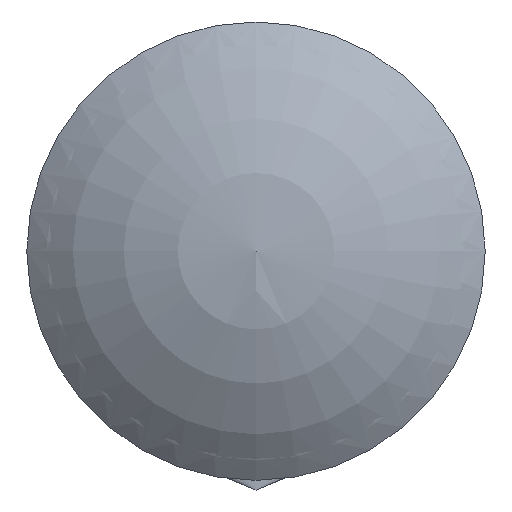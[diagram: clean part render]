
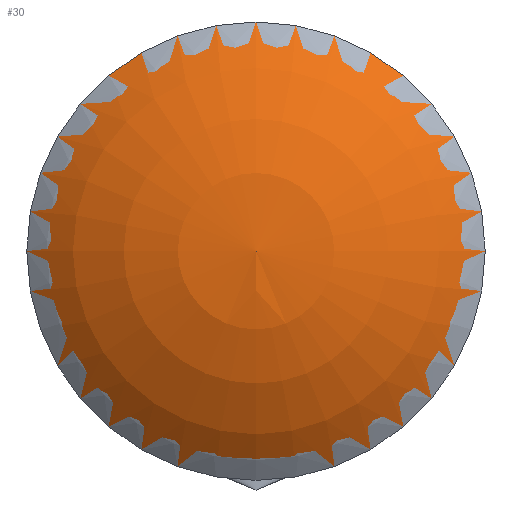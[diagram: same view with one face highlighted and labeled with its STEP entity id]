
A CAD part, front view. The second image highlights one B-rep face of the part: STEP entity #30.
In plain terms, the highlighted toroidal (fillet/blend) face has major radius 20 mm and minor radius 690.907 mm.
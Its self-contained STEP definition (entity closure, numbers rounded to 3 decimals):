
#13 = CIRCLE ( 'NONE', #138, 464.108 ) ;
#27 = CARTESIAN_POINT ( 'NONE',  ( 0., -134.263, 0. ) ) ;
#30 = ADVANCED_FACE ( 'NONE', ( #164 ), #145, .T. ) ;
#88 = CARTESIAN_POINT ( 'NONE',  ( 0., -134.263, -464.108 ) ) ;
#90 = DIRECTION ( 'NONE',  ( 0., 0., -1. ) ) ;
#92 = EDGE_CURVE ( 'NONE', #124, #124, #13, .T. ) ;
#114 = ORIENTED_EDGE ( 'NONE', *, *, #92, .F. ) ;
#117 = EDGE_LOOP ( 'NONE', ( #114 ) ) ;
#124 = VERTEX_POINT ( 'NONE', #88 ) ;
#132 = CARTESIAN_POINT ( 'NONE',  ( 0., 395., 0. ) ) ;
#138 = AXIS2_PLACEMENT_3D ( 'NONE', #27, #139, #170 ) ;
#139 = DIRECTION ( 'NONE',  ( 0., -1., 0. ) ) ;
#145 = TOROIDAL_SURFACE ( 'NONE', #199, 20., 690.907 ) ;
#164 = FACE_OUTER_BOUND ( 'NONE', #117, .T. ) ;
#170 = DIRECTION ( 'NONE',  ( 0., 0., -1. ) ) ;
#192 = DIRECTION ( 'NONE',  ( 0., -1., 0. ) ) ;
#199 = AXIS2_PLACEMENT_3D ( 'NONE', #132, #192, #90 ) ;
